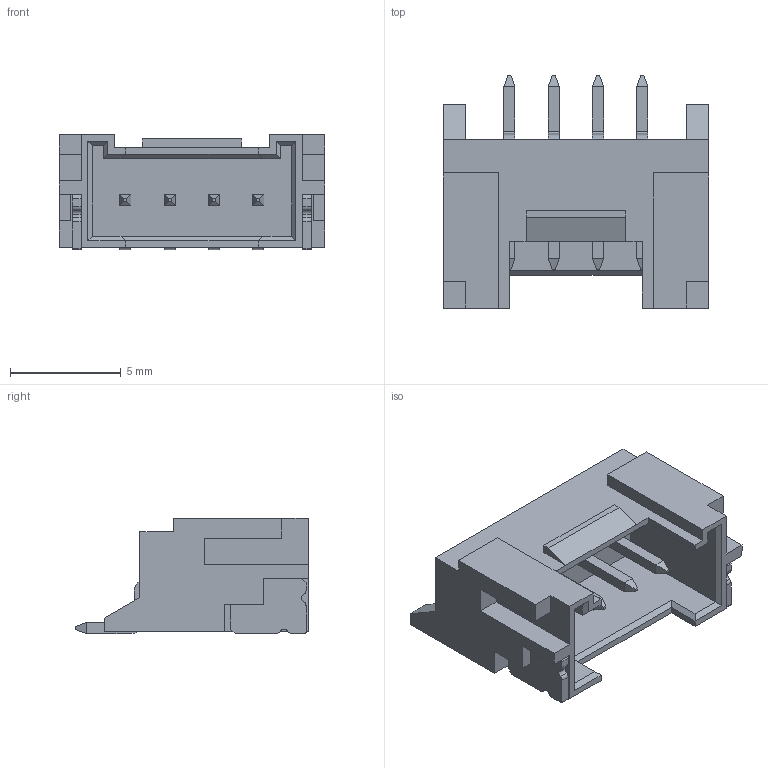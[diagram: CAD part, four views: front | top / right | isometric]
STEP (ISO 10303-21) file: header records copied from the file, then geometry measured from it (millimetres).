
FILE_DESCRIPTION (( 'STEP AP214' ), '1' );
FILE_NAME ('CONN-SMD_4P-P2.00_ZX-HY2.0-4PWT.STEP', '2023-06-26T15:06:20', ( '' ), ( '' ), 'SwSTEP 2.0', 'SolidWorks 2020', '' );
FILE_SCHEMA (( 'AUTOMOTIVE_DESIGN' ));
Length unit declared in the file: millimetre
Products named in the file (1): CONN-SMD_4P-P2.00_ZX-HY2.0-4PWT
Bounding box: 12.01 x 10.5 x 5.2 mm (x, y, z)
Volume: 212 mm3; surface area: 664.1 mm2
Topology: 3 solids, 3 shells, 506 faces, 1394 edges, 910 vertices
Faces by surface type: plane 376, bspline 98, cylinder 32
Entity records: 21984 total; most frequent: CARTESIAN_POINT 4117, ORIENTED_EDGE 2788, DIRECTION 2076, EDGE_CURVE 1394, VECTOR 1130, LINE 1130, VERTEX_POINT 910, EDGE_LOOP 530
